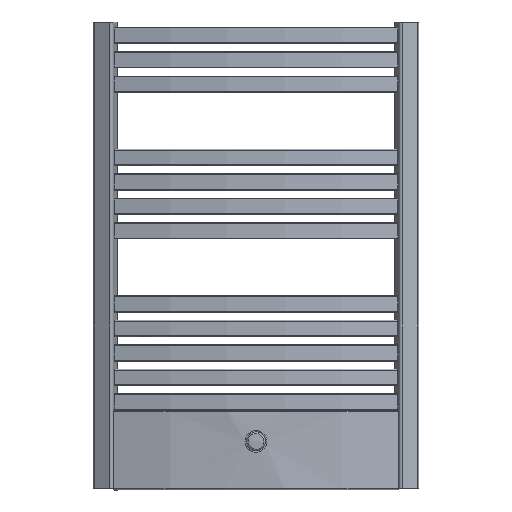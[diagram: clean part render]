
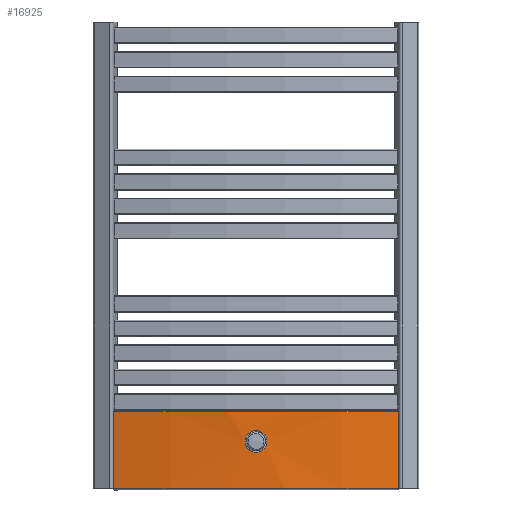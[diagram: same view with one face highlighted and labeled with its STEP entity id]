
A CAD part, front view. The second image highlights one B-rep face of the part: STEP entity #16925.
In plain terms, the highlighted cylindrical face has radius 965.647 mm (diameter 1931.29 mm), a partial arc.
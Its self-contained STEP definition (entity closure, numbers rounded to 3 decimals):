
#14457=CARTESIAN_POINT('',(261.831,-30.918,142.));
#14458=VERTEX_POINT('',#14457);
#14915=CARTESIAN_POINT('',(-261.831,-30.918,142.));
#14916=VERTEX_POINT('',#14915);
#14934=CARTESIAN_POINT('',(-261.831,-30.918,0.));
#14935=VERTEX_POINT('',#14934);
#14943=CARTESIAN_POINT('',(-261.831,-30.918,0.));
#14944=DIRECTION('',(0.0,0.0,1.0));
#14945=VECTOR('',#14944,142.);
#14946=LINE('',#14943,#14945);
#14947=EDGE_CURVE('',#14935,#14916,#14946,.T.);
#14958=CARTESIAN_POINT('',(261.831,-30.918,0.));
#14959=VERTEX_POINT('',#14958);
#14960=CARTESIAN_POINT('',(261.831,-30.918,0.));
#14961=DIRECTION('',(0.0,0.0,1.0));
#14962=VECTOR('',#14961,142.);
#14963=LINE('',#14960,#14962);
#14964=EDGE_CURVE('',#14959,#14458,#14963,.T.);
#15112=CARTESIAN_POINT('',(0.,898.555,142.));
#15113=DIRECTION('',(0.,0.,1.0));
#15114=DIRECTION('',(0.,-1.0,0.));
#15115=AXIS2_PLACEMENT_3D('',#15112,#15113,#15114);
#15116=CIRCLE('',#15115,965.647);
#15117=EDGE_CURVE('',#14916,#14458,#15116,.T.);
#15230=CARTESIAN_POINT('',(0.,898.555,0.));
#15231=DIRECTION('',(0.,0.,-1.0));
#15232=DIRECTION('',(0.,-1.0,0.));
#15233=AXIS2_PLACEMENT_3D('',#15230,#15231,#15232);
#15234=CIRCLE('',#15233,965.647);
#15235=EDGE_CURVE('',#14959,#14935,#15234,.T.);
#16841=CARTESIAN_POINT('',(0.,898.555,0.));
#16842=DIRECTION('',(0.,0.,1.0));
#16843=DIRECTION('',(0.271,-0.963,0.));
#16844=AXIS2_PLACEMENT_3D('',#16841,#16842,#16843);
#16845=CYLINDRICAL_SURFACE('',#16844,965.647);
#16846=ORIENTED_EDGE('',*,*,#15235,.F.);
#16847=ORIENTED_EDGE('',*,*,#14964,.T.);
#16848=ORIENTED_EDGE('',*,*,#15117,.F.);
#16849=ORIENTED_EDGE('',*,*,#14947,.F.);
#16850=EDGE_LOOP('',(#16846,#16847,#16848,#16849));
#16851=FACE_OUTER_BOUND('',#16850,.T.);
#16852=CARTESIAN_POINT('',(20.,-66.885,87.5));
#16853=VERTEX_POINT('',#16852);
#16854=CARTESIAN_POINT('',(20.,-66.885,87.5));
#16855=CARTESIAN_POINT('',(20.,-66.885,86.244));
#16856=CARTESIAN_POINT('',(19.88,-66.888,84.946));
#16857=CARTESIAN_POINT('',(19.374,-66.898,82.363));
#16858=CARTESIAN_POINT('',(18.988,-66.906,81.078));
#16859=CARTESIAN_POINT('',(17.967,-66.925,78.614));
#16860=CARTESIAN_POINT('',(17.332,-66.937,77.433));
#16861=CARTESIAN_POINT('',(15.863,-66.962,75.249));
#16862=CARTESIAN_POINT('',(15.03,-66.976,74.246));
#16863=CARTESIAN_POINT('',(13.254,-67.002,72.47));
#16864=CARTESIAN_POINT('',(12.251,-67.015,71.637));
#16865=CARTESIAN_POINT('',(10.067,-67.04,70.168));
#16866=CARTESIAN_POINT('',(8.886,-67.052,69.533));
#16867=CARTESIAN_POINT('',(6.422,-67.072,68.512));
#16868=CARTESIAN_POINT('',(5.137,-67.079,68.126));
#16869=CARTESIAN_POINT('',(2.554,-67.09,67.62));
#16870=CARTESIAN_POINT('',(1.256,-67.092,67.5));
#16871=CARTESIAN_POINT('',(-1.256,-67.092,67.5));
#16872=CARTESIAN_POINT('',(-2.554,-67.09,67.62));
#16873=CARTESIAN_POINT('',(-5.137,-67.079,68.126));
#16874=CARTESIAN_POINT('',(-6.422,-67.072,68.512));
#16875=CARTESIAN_POINT('',(-8.886,-67.052,69.533));
#16876=CARTESIAN_POINT('',(-10.067,-67.04,70.168));
#16877=CARTESIAN_POINT('',(-12.251,-67.015,71.637));
#16878=CARTESIAN_POINT('',(-13.254,-67.002,72.47));
#16879=CARTESIAN_POINT('',(-15.03,-66.976,74.246));
#16880=CARTESIAN_POINT('',(-15.863,-66.962,75.249));
#16881=CARTESIAN_POINT('',(-17.332,-66.937,77.433));
#16882=CARTESIAN_POINT('',(-17.967,-66.925,78.614));
#16883=CARTESIAN_POINT('',(-18.988,-66.906,81.078));
#16884=CARTESIAN_POINT('',(-19.374,-66.898,82.363));
#16885=CARTESIAN_POINT('',(-19.88,-66.888,84.946));
#16886=CARTESIAN_POINT('',(-20.,-66.885,86.244));
#16887=CARTESIAN_POINT('',(-20.,-66.885,88.756));
#16888=CARTESIAN_POINT('',(-19.88,-66.888,90.054));
#16889=CARTESIAN_POINT('',(-19.374,-66.898,92.637));
#16890=CARTESIAN_POINT('',(-18.988,-66.906,93.922));
#16891=CARTESIAN_POINT('',(-17.967,-66.925,96.386));
#16892=CARTESIAN_POINT('',(-17.332,-66.937,97.567));
#16893=CARTESIAN_POINT('',(-15.863,-66.962,99.751));
#16894=CARTESIAN_POINT('',(-15.03,-66.976,100.754));
#16895=CARTESIAN_POINT('',(-13.254,-67.002,102.53));
#16896=CARTESIAN_POINT('',(-12.251,-67.015,103.363));
#16897=CARTESIAN_POINT('',(-10.067,-67.04,104.832));
#16898=CARTESIAN_POINT('',(-8.886,-67.052,105.467));
#16899=CARTESIAN_POINT('',(-6.422,-67.072,106.488));
#16900=CARTESIAN_POINT('',(-5.137,-67.079,106.874));
#16901=CARTESIAN_POINT('',(-2.554,-67.09,107.38));
#16902=CARTESIAN_POINT('',(-1.256,-67.092,107.5));
#16903=CARTESIAN_POINT('',(1.256,-67.092,107.5));
#16904=CARTESIAN_POINT('',(2.554,-67.09,107.38));
#16905=CARTESIAN_POINT('',(5.137,-67.079,106.874));
#16906=CARTESIAN_POINT('',(6.422,-67.072,106.488));
#16907=CARTESIAN_POINT('',(8.886,-67.052,105.467));
#16908=CARTESIAN_POINT('',(10.067,-67.04,104.832));
#16909=CARTESIAN_POINT('',(12.251,-67.015,103.363));
#16910=CARTESIAN_POINT('',(13.254,-67.002,102.53));
#16911=CARTESIAN_POINT('',(15.03,-66.976,100.754));
#16912=CARTESIAN_POINT('',(15.863,-66.962,99.751));
#16913=CARTESIAN_POINT('',(17.332,-66.937,97.567));
#16914=CARTESIAN_POINT('',(17.967,-66.925,96.386));
#16915=CARTESIAN_POINT('',(18.988,-66.906,93.922));
#16916=CARTESIAN_POINT('',(19.374,-66.898,92.637));
#16917=CARTESIAN_POINT('',(19.88,-66.888,90.054));
#16918=CARTESIAN_POINT('',(20.,-66.885,88.756));
#16919=CARTESIAN_POINT('',(20.,-66.885,87.5));
#16920=B_SPLINE_CURVE_WITH_KNOTS('',3,(#16854,#16855,#16856,#16857,#16858,#16859,#16860,#16861,#16862,#16863,#16864,#16865,#16866,#16867,#16868,#16869,#16870,#16871,#16872,#16873,#16874,#16875,#16876,#16877,#16878,#16879,#16880,#16881,#16882,#16883,#16884,#16885,#16886,#16887,#16888,#16889,#16890,#16891,#16892,#16893,#16894,#16895,#16896,#16897,#16898,#16899,#16900,#16901,#16902,#16903,#16904,#16905,#16906,#16907,#16908,#16909,#16910,#16911,#16912,#16913,#16914,#16915,#16916,#16917,#16918,#16919),.UNSPECIFIED.,.T.,.U.,(4,2,2,2,2,2,2,2,2,2,2,2,2,2,2,2,2,2,2,2,2,2,2,2,2,2,2,2,2,2,2,2,4),(0.0,0.377,0.753,1.13,1.507,1.883,2.26,2.637,3.014,3.39,3.767,4.144,4.52,4.897,5.274,5.65,6.027,6.404,6.781,7.157,7.534,7.911,8.287,8.664,9.041,9.417,9.794,10.171,10.548,10.924,11.301,11.678,12.054),.UNSPECIFIED.);
#16921=EDGE_CURVE('',#16853,#16853,#16920,.T.);
#16922=ORIENTED_EDGE('',*,*,#16921,.T.);
#16923=EDGE_LOOP('',(#16922));
#16924=FACE_BOUND('',#16923,.T.);
#16925=ADVANCED_FACE('',(#16851,#16924),#16845,.T.);
